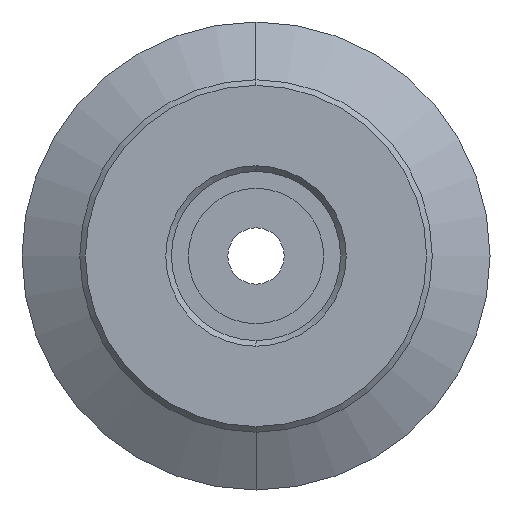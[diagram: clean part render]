
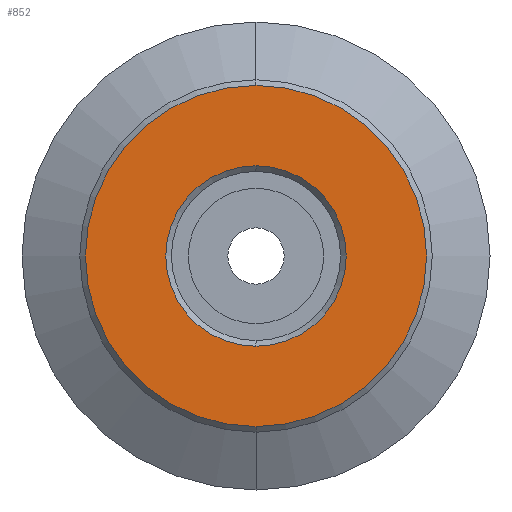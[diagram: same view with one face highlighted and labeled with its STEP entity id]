
A CAD part, left-side view. The second image highlights one B-rep face of the part: STEP entity #852.
In plain terms, the highlighted planar face has unit normal (-1, 0, 0).
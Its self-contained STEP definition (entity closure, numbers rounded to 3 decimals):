
#64 = CARTESIAN_POINT ( 'NONE',  ( -10.5, 6.25, 0. ) ) ;
#162 = EDGE_CURVE ( 'NONE', #957, #872, #1827, .T. ) ;
#189 = EDGE_CURVE ( 'NONE', #1521, #347, #1618, .T. ) ;
#191 = EDGE_CURVE ( 'NONE', #347, #1521, #1662, .T. ) ;
#221 = DIRECTION ( 'NONE',  ( 0., 0., 1. ) ) ;
#303 = CARTESIAN_POINT ( 'NONE',  ( -10.5, 0., -3.2 ) ) ;
#347 = VERTEX_POINT ( 'NONE', #303 ) ;
#409 = DIRECTION ( 'NONE',  ( -1., 0., 0. ) ) ;
#499 = EDGE_LOOP ( 'NONE', ( #548, #870 ) ) ;
#515 = DIRECTION ( 'NONE',  ( 0., 0., 1. ) ) ;
#548 = ORIENTED_EDGE ( 'NONE', *, *, #162, .T. ) ;
#589 = DIRECTION ( 'NONE',  ( 1., 0., 0. ) ) ;
#615 = DIRECTION ( 'NONE',  ( 0., 0., 1. ) ) ;
#625 = CARTESIAN_POINT ( 'NONE',  ( -10.5, 0., 0. ) ) ;
#676 = PLANE ( 'NONE',  #1449 ) ;
#765 = DIRECTION ( 'NONE',  ( 0., 0., 1. ) ) ;
#809 = ORIENTED_EDGE ( 'NONE', *, *, #191, .T. ) ;
#826 = FACE_OUTER_BOUND ( 'NONE', #499, .T. ) ;
#852 = ADVANCED_FACE ( 'NONE', ( #826, #922 ), #676, .T. ) ;
#865 = CARTESIAN_POINT ( 'NONE',  ( -10.5, 0., 0. ) ) ;
#870 = ORIENTED_EDGE ( 'NONE', *, *, #972, .T. ) ;
#872 = VERTEX_POINT ( 'NONE', #989 ) ;
#898 = CIRCLE ( 'NONE', #929, 6.05 ) ;
#922 = FACE_BOUND ( 'NONE', #1565, .T. ) ;
#929 = AXIS2_PLACEMENT_3D ( 'NONE', #625, #1609, #765 ) ;
#957 = VERTEX_POINT ( 'NONE', #1286 ) ;
#972 = EDGE_CURVE ( 'NONE', #872, #957, #898, .T. ) ;
#989 = CARTESIAN_POINT ( 'NONE',  ( -10.5, 0., 6.05 ) ) ;
#1005 = CARTESIAN_POINT ( 'NONE',  ( -10.5, 0., 3.2 ) ) ;
#1093 = DIRECTION ( 'NONE',  ( -1., 0., 0. ) ) ;
#1270 = CARTESIAN_POINT ( 'NONE',  ( -10.5, 0., 0. ) ) ;
#1286 = CARTESIAN_POINT ( 'NONE',  ( -10.5, 0., -6.05 ) ) ;
#1399 = AXIS2_PLACEMENT_3D ( 'NONE', #1270, #409, #515 ) ;
#1435 = CARTESIAN_POINT ( 'NONE',  ( -10.5, 0., 0. ) ) ;
#1449 = AXIS2_PLACEMENT_3D ( 'NONE', #64, #1093, #221 ) ;
#1521 = VERTEX_POINT ( 'NONE', #1005 ) ;
#1523 = AXIS2_PLACEMENT_3D ( 'NONE', #865, #1856, #615 ) ;
#1539 = AXIS2_PLACEMENT_3D ( 'NONE', #1435, #589, #1575 ) ;
#1565 = EDGE_LOOP ( 'NONE', ( #1796, #809 ) ) ;
#1575 = DIRECTION ( 'NONE',  ( 0., 0., 1. ) ) ;
#1609 = DIRECTION ( 'NONE',  ( -1., 0., 0. ) ) ;
#1618 = CIRCLE ( 'NONE', #1539, 3.2 ) ;
#1662 = CIRCLE ( 'NONE', #1523, 3.2 ) ;
#1796 = ORIENTED_EDGE ( 'NONE', *, *, #189, .T. ) ;
#1827 = CIRCLE ( 'NONE', #1399, 6.05 ) ;
#1856 = DIRECTION ( 'NONE',  ( 1., 0., 0. ) ) ;
